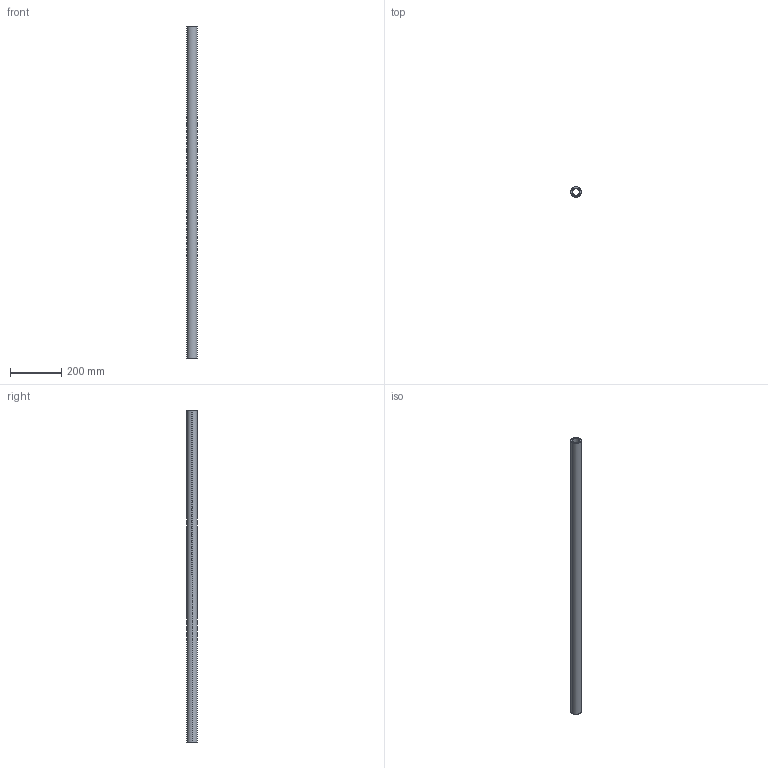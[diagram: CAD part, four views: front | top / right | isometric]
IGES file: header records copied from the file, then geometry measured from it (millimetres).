
Start section: SolidWorks IGES file using analytic representation for surfaces
Global section: file name: C:\Users\IanO\Desktop\L1771_v2\L1771.40_v2\L1771.40_v2_20230705_IGES\L1771.40-1300.igs; native system: SolidWorks 2019; preprocessor: SolidWorks 2019; author: IanO; date: 230705.160521; units: millimetre
Bounding box: 40 x 40 x 1300 mm (x, y, z)
Surface area: 278998.6 mm2 (no closed solid volume)
Topology: 0 solids, 0 shells, 6 faces, 272 edges, 272 vertices
Faces by surface type: revolution 4, bspline 2
